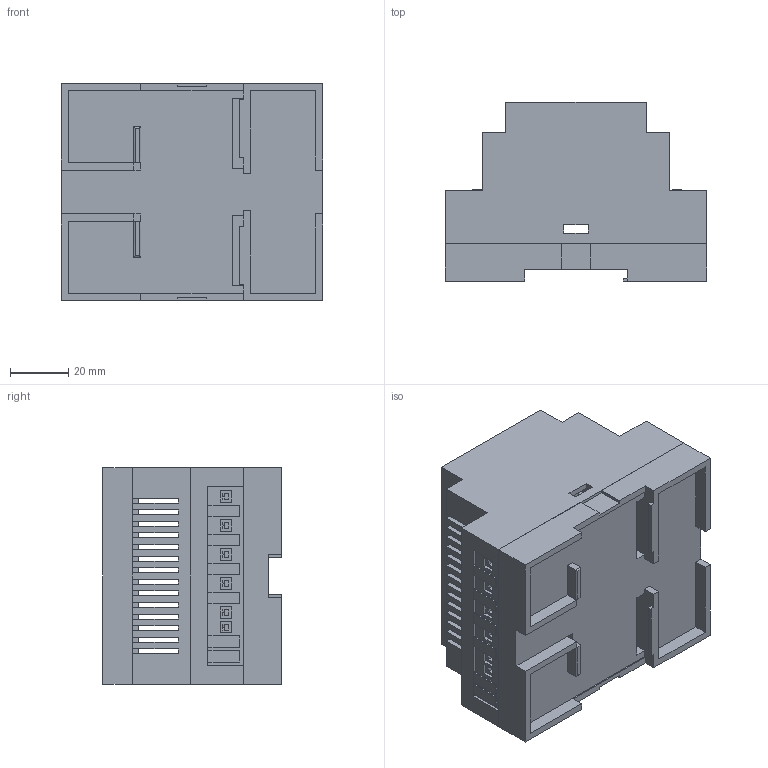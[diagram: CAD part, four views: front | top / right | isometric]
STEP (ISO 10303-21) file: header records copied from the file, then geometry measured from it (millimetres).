
FILE_DESCRIPTION (( 'STEP AP214' ), '1' );
FILE_NAME ('VPM-07-2.STEP', '2026-05-13T07:17:25', ( '' ), ( '' ), 'SwSTEP 2.0', 'SolidWorks 2022', '' );
FILE_SCHEMA (( 'AUTOMOTIVE_DESIGN' ));
Length unit declared in the file: millimetre
Products named in the file (1): VPM-07-2
Bounding box: 90 x 61.5 x 74.6 mm (x, y, z)
Volume: 53554.3 mm3; surface area: 74286.6 mm2
Topology: 16 solids, 16 shells, 2646 faces, 7362 edges, 4889 vertices
Faces by surface type: plane 1793, bspline 666, cylinder 181, torus 6
Entity records: 118205 total; most frequent: CARTESIAN_POINT 53412, ORIENTED_EDGE 14724, DIRECTION 10470, EDGE_CURVE 7362, VECTOR 5544, LINE 5544, VERTEX_POINT 4889, EDGE_LOOP 3031
